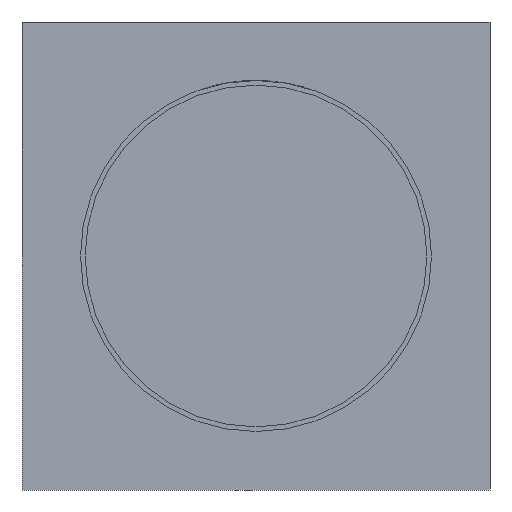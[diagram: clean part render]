
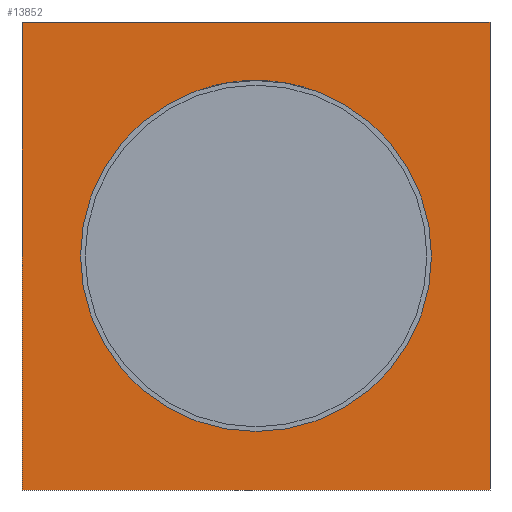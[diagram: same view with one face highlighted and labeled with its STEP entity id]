
A CAD part, front view. The second image highlights one B-rep face of the part: STEP entity #13852.
In plain terms, the highlighted planar face has unit normal (0, -1, 0).
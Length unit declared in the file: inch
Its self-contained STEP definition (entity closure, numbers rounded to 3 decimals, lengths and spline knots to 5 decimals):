
#13556=CARTESIAN_POINT('',(-3.,5.79,0.0));
#13557=VERTEX_POINT('',#13556);
#13558=CARTESIAN_POINT('',(0.0,5.79,0.0));
#13559=DIRECTION('',(0.0,1.0,0.0));
#13560=DIRECTION('',(-1.0,0.0,0.0));
#13561=AXIS2_PLACEMENT_3D('',#13558,#13559,#13560);
#13562=CIRCLE('',#13561,3.);
#13563=EDGE_CURVE('',#13557,#13557,#13562,.T.);
#13685=CARTESIAN_POINT('',(4.,5.79,-4.));
#13686=VERTEX_POINT('',#13685);
#13687=CARTESIAN_POINT('',(-4.0,5.79,-4.));
#13688=VERTEX_POINT('',#13687);
#13689=CARTESIAN_POINT('',(4.,5.79,-4.));
#13690=DIRECTION('',(-1.0,0.0,0.0));
#13691=VECTOR('',#13690,8.0);
#13692=LINE('',#13689,#13691);
#13693=EDGE_CURVE('',#13686,#13688,#13692,.T.);
#13725=CARTESIAN_POINT('',(-4.,5.79,4.));
#13726=VERTEX_POINT('',#13725);
#13727=CARTESIAN_POINT('',(-4.0,5.79,-4.));
#13728=DIRECTION('',(0.0,0.0,1.0));
#13729=VECTOR('',#13728,8.);
#13730=LINE('',#13727,#13729);
#13731=EDGE_CURVE('',#13688,#13726,#13730,.T.);
#13756=CARTESIAN_POINT('',(4.,5.79,4.));
#13757=VERTEX_POINT('',#13756);
#13758=CARTESIAN_POINT('',(-4.,5.79,4.));
#13759=DIRECTION('',(1.0,0.0,0.0));
#13760=VECTOR('',#13759,8.);
#13761=LINE('',#13758,#13760);
#13762=EDGE_CURVE('',#13726,#13757,#13761,.T.);
#13787=CARTESIAN_POINT('',(4.,5.79,4.));
#13788=DIRECTION('',(0.0,0.0,-1.0));
#13789=VECTOR('',#13788,8.);
#13790=LINE('',#13787,#13789);
#13791=EDGE_CURVE('',#13757,#13686,#13790,.T.);
#13838=CARTESIAN_POINT('',(-3.5,5.79,0.0));
#13839=DIRECTION('',(0.0,-1.0,0.0));
#13840=DIRECTION('',(0.0,0.0,-1.0));
#13841=AXIS2_PLACEMENT_3D('',#13838,#13839,#13840);
#13842=PLANE('',#13841);
#13843=ORIENTED_EDGE('',*,*,#13731,.F.);
#13844=ORIENTED_EDGE('',*,*,#13693,.F.);
#13845=ORIENTED_EDGE('',*,*,#13791,.F.);
#13846=ORIENTED_EDGE('',*,*,#13762,.F.);
#13847=EDGE_LOOP('',(#13843,#13844,#13845,#13846));
#13848=FACE_OUTER_BOUND('',#13847,.T.);
#13849=ORIENTED_EDGE('',*,*,#13563,.T.);
#13850=EDGE_LOOP('',(#13849));
#13851=FACE_BOUND('',#13850,.T.);
#13852=ADVANCED_FACE('',(#13848,#13851),#13842,.T.);
